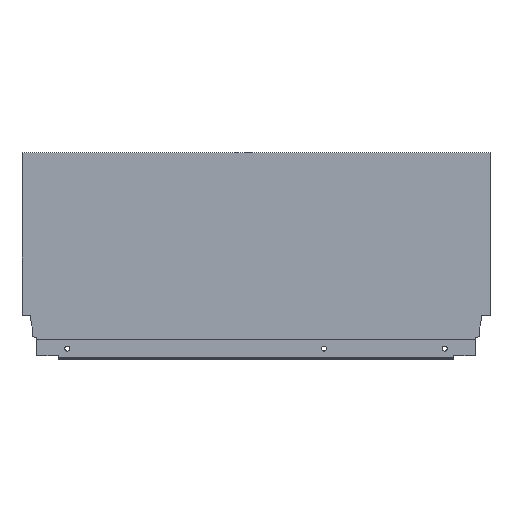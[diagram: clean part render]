
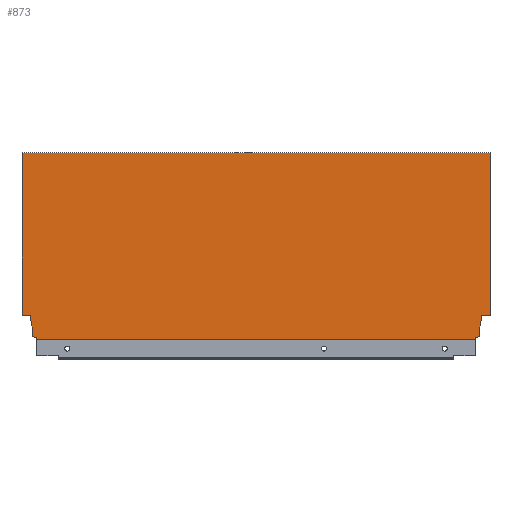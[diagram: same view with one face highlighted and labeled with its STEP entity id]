
A CAD part, top view. The second image highlights one B-rep face of the part: STEP entity #873.
In plain terms, the highlighted planar face has unit normal (0, 0, 1).
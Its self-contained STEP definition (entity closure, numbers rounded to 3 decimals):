
#110 = VECTOR ( 'NONE', #1482, 1000. ) ;
#111 = LINE ( 'NONE', #1483, #110 ) ;
#117 = LINE ( 'NONE', #1523, #176 ) ;
#122 = VECTOR ( 'NONE', #1496, 1000. ) ;
#135 = VECTOR ( 'NONE', #1516, 1000. ) ;
#136 = VECTOR ( 'NONE', #1499, 1000. ) ;
#137 = LINE ( 'NONE', #1500, #136 ) ;
#138 = VECTOR ( 'NONE', #1503, 1000. ) ;
#151 = VECTOR ( 'NONE', #1512, 1000. ) ;
#152 = LINE ( 'NONE', #1513, #151 ) ;
#158 = LINE ( 'NONE', #1479, #215 ) ;
#171 = VECTOR ( 'NONE', #1481, 1000. ) ;
#172 = LINE ( 'NONE', #1494, #204 ) ;
#173 = LINE ( 'NONE', #1509, #184 ) ;
#176 = VECTOR ( 'NONE', #1522, 1000. ) ;
#177 = VECTOR ( 'NONE', #1485, 1000. ) ;
#183 = LINE ( 'NONE', #1504, #138 ) ;
#184 = VECTOR ( 'NONE', #1507, 1000. ) ;
#200 = LINE ( 'NONE', #1517, #135 ) ;
#204 = VECTOR ( 'NONE', #1493, 1000. ) ;
#205 = LINE ( 'NONE', #1488, #206 ) ;
#206 = VECTOR ( 'NONE', #1487, 1000. ) ;
#207 = LINE ( 'NONE', #1486, #177 ) ;
#208 = LINE ( 'NONE', #1491, #209 ) ;
#209 = VECTOR ( 'NONE', #1489, 1000. ) ;
#211 = FACE_OUTER_BOUND ( 'NONE', #1136, .T. ) ;
#213 = LINE ( 'NONE', #1484, #171 ) ;
#214 = LINE ( 'NONE', #1531, #122 ) ;
#215 = VECTOR ( 'NONE', #1474, 1000. ) ;
#263 = DIRECTION ( 'NONE',  ( 1., 0., 0. ) ) ;
#264 = DIRECTION ( 'NONE',  ( 0., 0., 1. ) ) ;
#277 = CARTESIAN_POINT ( 'NONE',  ( -413., 0., 7.5 ) ) ;
#280 = PLANE ( 'NONE',  #748 ) ;
#291 = CARTESIAN_POINT ( 'NONE',  ( 0., 21.2, 7.5 ) ) ;
#303 = CARTESIAN_POINT ( 'NONE',  ( 0., 164.7, 7.5 ) ) ;
#309 = CARTESIAN_POINT ( 'NONE',  ( -8.9, 2.64, 7.5 ) ) ;
#310 = CARTESIAN_POINT ( 'NONE',  ( -13.004, 1.146, 7.5 ) ) ;
#316 = CARTESIAN_POINT ( 'NONE',  ( -399.996, 0., 7.5 ) ) ;
#352 = CARTESIAN_POINT ( 'NONE',  ( -8.9, 10.765, 7.5 ) ) ;
#357 = CARTESIAN_POINT ( 'NONE',  ( -413., 21.2, 7.5 ) ) ;
#377 = CARTESIAN_POINT ( 'NONE',  ( -413., 164.7, 7.5 ) ) ;
#582 = VERTEX_POINT ( 'NONE', #377 ) ;
#585 = VERTEX_POINT ( 'NONE', #303 ) ;
#607 = VERTEX_POINT ( 'NONE', #357 ) ;
#616 = VERTEX_POINT ( 'NONE', #352 ) ;
#626 = VERTEX_POINT ( 'NONE', #291 ) ;
#636 = VERTEX_POINT ( 'NONE', #309 ) ;
#644 = VERTEX_POINT ( 'NONE', #316 ) ;
#647 = VERTEX_POINT ( 'NONE', #310 ) ;
#648 = VERTEX_POINT ( 'NONE', #1527 ) ;
#649 = VERTEX_POINT ( 'NONE', #1528 ) ;
#650 = VERTEX_POINT ( 'NONE', #1535 ) ;
#652 = VERTEX_POINT ( 'NONE', #1529 ) ;
#672 = VERTEX_POINT ( 'NONE', #1514 ) ;
#674 = VERTEX_POINT ( 'NONE', #1510 ) ;
#676 = EDGE_CURVE ( 'NONE', #582, #585, #213, .T. ) ;
#681 = EDGE_CURVE ( 'NONE', #644, #652, #158, .T. ) ;
#687 = EDGE_CURVE ( 'NONE', #626, #650, #117, .T. ) ;
#689 = EDGE_CURVE ( 'NONE', #650, #616, #200, .T. ) ;
#690 = EDGE_CURVE ( 'NONE', #585, #626, #152, .T. ) ;
#691 = EDGE_CURVE ( 'NONE', #616, #636, #173, .T. ) ;
#692 = EDGE_CURVE ( 'NONE', #636, #647, #183, .T. ) ;
#693 = EDGE_CURVE ( 'NONE', #582, #607, #137, .T. ) ;
#694 = EDGE_CURVE ( 'NONE', #647, #672, #214, .T. ) ;
#695 = EDGE_CURVE ( 'NONE', #652, #648, #172, .T. ) ;
#696 = EDGE_CURVE ( 'NONE', #648, #649, #208, .T. ) ;
#697 = EDGE_CURVE ( 'NONE', #649, #674, #205, .T. ) ;
#698 = EDGE_CURVE ( 'NONE', #674, #607, #207, .T. ) ;
#699 = EDGE_CURVE ( 'NONE', #644, #672, #111, .T. ) ;
#748 = AXIS2_PLACEMENT_3D ( 'NONE', #277, #264, #263 ) ;
#873 = ADVANCED_FACE ( 'NONE', ( #211 ), #280, .T. ) ;
#1136 = EDGE_LOOP ( 'NONE', ( #1255, #1256, #1257, #1258, #1259, #1261, #1262, #1398, #1399, #1400, #1401, #1402, #1403, #1406 ) ) ;
#1255 = ORIENTED_EDGE ( 'NONE', *, *, #693, .T. ) ;
#1256 = ORIENTED_EDGE ( 'NONE', *, *, #698, .F. ) ;
#1257 = ORIENTED_EDGE ( 'NONE', *, *, #697, .F. ) ;
#1258 = ORIENTED_EDGE ( 'NONE', *, *, #696, .F. ) ;
#1259 = ORIENTED_EDGE ( 'NONE', *, *, #695, .F. ) ;
#1261 = ORIENTED_EDGE ( 'NONE', *, *, #681, .F. ) ;
#1262 = ORIENTED_EDGE ( 'NONE', *, *, #699, .T. ) ;
#1398 = ORIENTED_EDGE ( 'NONE', *, *, #694, .F. ) ;
#1399 = ORIENTED_EDGE ( 'NONE', *, *, #692, .F. ) ;
#1400 = ORIENTED_EDGE ( 'NONE', *, *, #691, .F. ) ;
#1401 = ORIENTED_EDGE ( 'NONE', *, *, #689, .F. ) ;
#1402 = ORIENTED_EDGE ( 'NONE', *, *, #687, .F. ) ;
#1403 = ORIENTED_EDGE ( 'NONE', *, *, #690, .F. ) ;
#1406 = ORIENTED_EDGE ( 'NONE', *, *, #676, .F. ) ;
#1474 = DIRECTION ( 'NONE',  ( 0., 1., 0. ) ) ;
#1479 = CARTESIAN_POINT ( 'NONE',  ( -399.996, 1.146, 7.5 ) ) ;
#1481 = DIRECTION ( 'NONE',  ( 1., 0., 0. ) ) ;
#1482 = DIRECTION ( 'NONE',  ( 1., 0., 0. ) ) ;
#1483 = CARTESIAN_POINT ( 'NONE',  ( -413., 0., 7.5 ) ) ;
#1484 = CARTESIAN_POINT ( 'NONE',  ( -413., 164.7, 7.5 ) ) ;
#1485 = DIRECTION ( 'NONE',  ( -1., 0., 0. ) ) ;
#1486 = CARTESIAN_POINT ( 'NONE',  ( -418., 21.2, 7.5 ) ) ;
#1487 = DIRECTION ( 'NONE',  ( -0.174, 0.985, 0. ) ) ;
#1488 = CARTESIAN_POINT ( 'NONE',  ( -405.94, 21.2, 7.5 ) ) ;
#1489 = DIRECTION ( 'NONE',  ( 0., 1., 0. ) ) ;
#1491 = CARTESIAN_POINT ( 'NONE',  ( -404.1, 10.765, 7.5 ) ) ;
#1493 = DIRECTION ( 'NONE',  ( -0.94, 0.342, 0. ) ) ;
#1494 = CARTESIAN_POINT ( 'NONE',  ( -404.1, 2.64, 7.5 ) ) ;
#1496 = DIRECTION ( 'NONE',  ( 0., -1., 0. ) ) ;
#1499 = DIRECTION ( 'NONE',  ( 0., -1., 0. ) ) ;
#1500 = CARTESIAN_POINT ( 'NONE',  ( -413., 0., 7.5 ) ) ;
#1503 = DIRECTION ( 'NONE',  ( -0.94, -0.342, 0. ) ) ;
#1504 = CARTESIAN_POINT ( 'NONE',  ( -8.9, 2.64, 7.5 ) ) ;
#1507 = DIRECTION ( 'NONE',  ( 0., -1., 0. ) ) ;
#1509 = CARTESIAN_POINT ( 'NONE',  ( -8.9, 10.765, 7.5 ) ) ;
#1510 = CARTESIAN_POINT ( 'NONE',  ( -405.94, 21.2, 7.5 ) ) ;
#1512 = DIRECTION ( 'NONE',  ( 0., -1., 0. ) ) ;
#1513 = CARTESIAN_POINT ( 'NONE',  ( 0., 0., 7.5 ) ) ;
#1514 = CARTESIAN_POINT ( 'NONE',  ( -13.004, 0., 7.5 ) ) ;
#1516 = DIRECTION ( 'NONE',  ( -0.174, -0.985, 0. ) ) ;
#1517 = CARTESIAN_POINT ( 'NONE',  ( -7.06, 21.2, 7.5 ) ) ;
#1522 = DIRECTION ( 'NONE',  ( -1., 0., 0. ) ) ;
#1523 = CARTESIAN_POINT ( 'NONE',  ( 0., 21.2, 7.5 ) ) ;
#1527 = CARTESIAN_POINT ( 'NONE',  ( -404.1, 2.64, 7.5 ) ) ;
#1528 = CARTESIAN_POINT ( 'NONE',  ( -404.1, 10.765, 7.5 ) ) ;
#1529 = CARTESIAN_POINT ( 'NONE',  ( -399.996, 1.146, 7.5 ) ) ;
#1531 = CARTESIAN_POINT ( 'NONE',  ( -13.004, 1.146, 7.5 ) ) ;
#1535 = CARTESIAN_POINT ( 'NONE',  ( -7.06, 21.2, 7.5 ) ) ;
